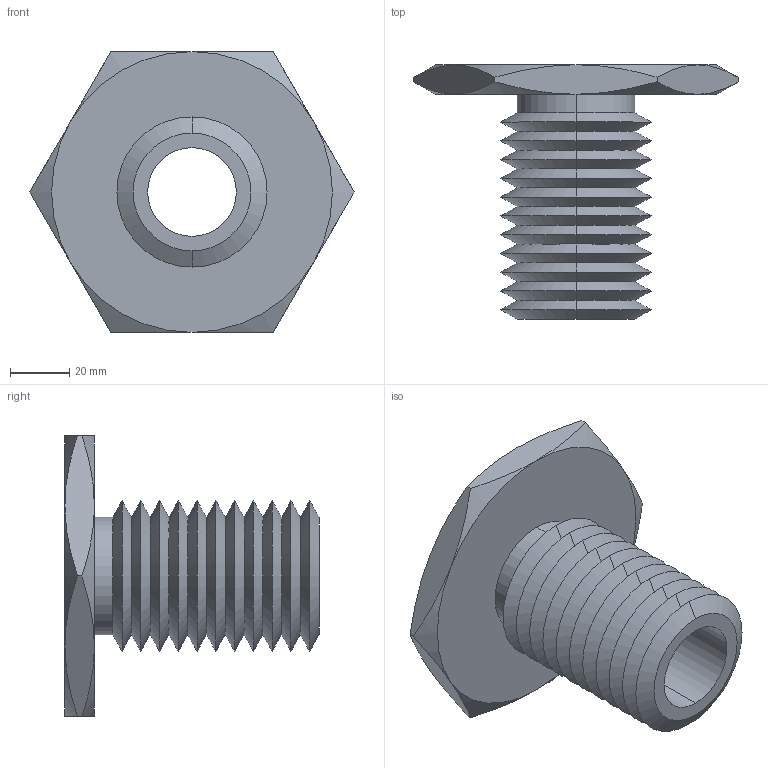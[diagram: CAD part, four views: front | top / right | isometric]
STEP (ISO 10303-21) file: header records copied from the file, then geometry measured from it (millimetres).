
FILE_DESCRIPTION (( 'STEP AP203' ), '1' );
FILE_NAME ('63302.W5200_M30x3,5.step', '2013-12-08T11:48:43', ( 'User' ), ( '' ), 'SwSTEP 2.0', 'SolidWorks 2009', '' );
FILE_SCHEMA (( 'CONFIG_CONTROL_DESIGN' ));
Length unit declared in the file: millimetre
Products named in the file (1): 63302.W5200_M30x3,5
Bounding box: 109.7 x 86 x 95 mm (x, y, z)
Volume: 135671.9 mm3; surface area: 45354.9 mm2
Topology: 1 solids, 1 shells, 71 faces, 146 edges, 78 vertices
Faces by surface type: cone 58, plane 9, cylinder 4
Entity records: 2071 total; most frequent: CARTESIAN_POINT 512, DIRECTION 332, ORIENTED_EDGE 292, EDGE_CURVE 146, AXIS2_PLACEMENT_3D 138, VERTEX_POINT 78, EDGE_LOOP 74, ADVANCED_FACE 71
